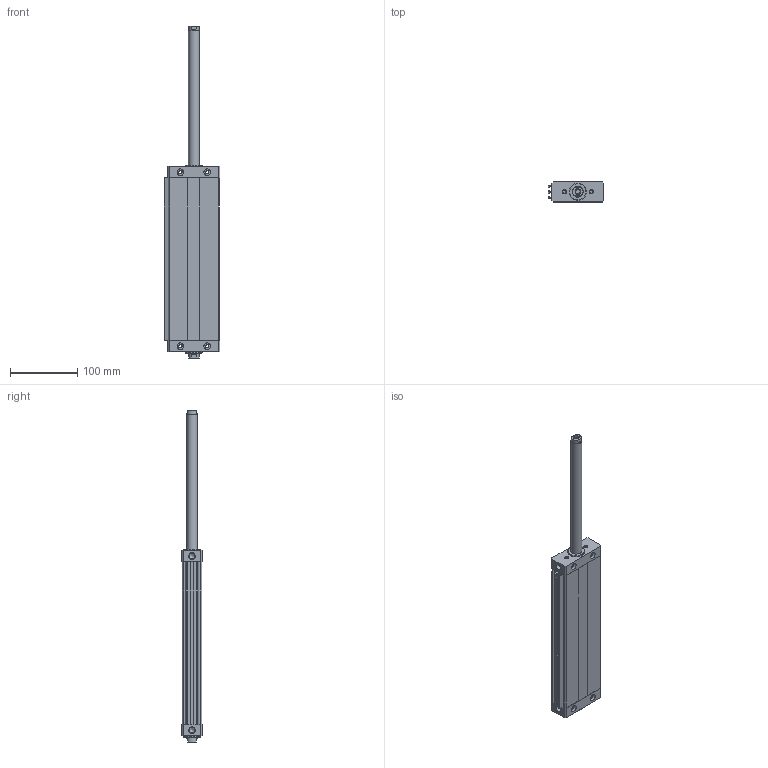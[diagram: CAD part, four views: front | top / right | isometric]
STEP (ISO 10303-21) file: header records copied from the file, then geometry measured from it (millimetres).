
FILE_DESCRIPTION((''),'2;1');
FILE_NAME('I:\Area Tecnica\Disegni\VARIE-3D\Componenti\1370 - CPO\1370_##_0000_03\1370_40_0200_03-01.iam.step','2010-12-16T10:57:09',(''),(''),'Autodesk Inventor 2011','Autodesk Inventor 2011','');
FILE_SCHEMA(('AUTOMOTIVE_DESIGN { 1 0 10303 214 1 1 1 1 }'));
Length unit declared in the file: millimetre
Products named in the file (5): 1370_40_0200_03-01; 1370_05_40_0000; 1370_06_40_0200; 1370_08_40_0000; 1370_3_40_0200
Assembly tree (4 placements, depth 2):
  1370_40_0200_03-01
    1370_05_40_0000
    1370_06_40_0200
    1370_08_40_0000
    1370_3_40_0200
Bounding box: 82.5 x 30 x 494 mm (x, y, z)
Volume: 436870.5 mm3; surface area: 153658.2 mm2
Topology: 4 solids, 4 shells, 166 faces, 398 edges, 254 vertices
Faces by surface type: plane 94, cylinder 48, cone 24
Full cylindrical faces by diameter (mm): 5 x10, 6.8 x2, 8.4 x2, 8.7 x2, 10 x8, 15.5 x2, 16 x4, 25 x2
Entity records: 4848 total; most frequent: DIRECTION 802, CARTESIAN_POINT 799, ORIENTED_EDGE 672, EDGE_CURVE 336, AXIS2_PLACEMENT_3D 299, EDGE_LOOP 254, VERTEX_POINT 244, VECTOR 204
